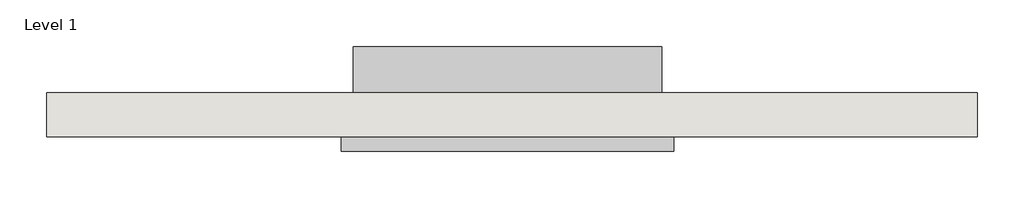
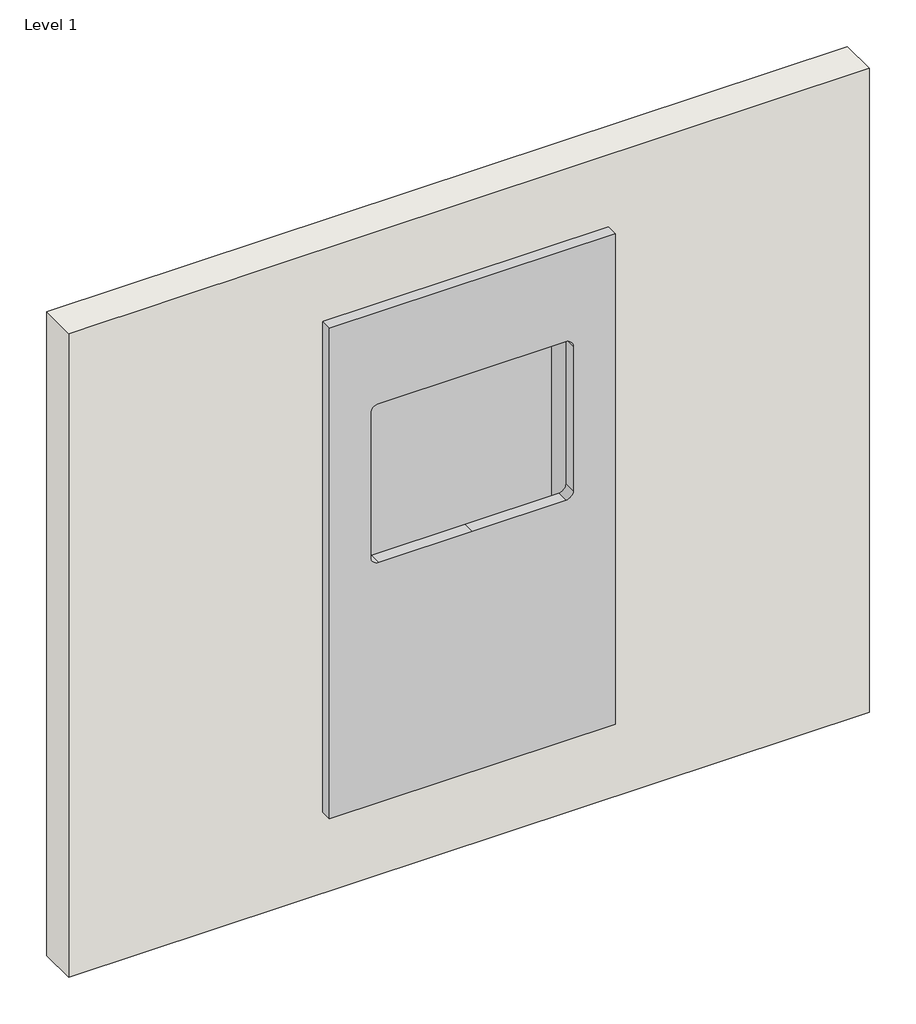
# One storey: 1 proxy, 1 wall.
"""IFC4 building model written with IfcOpenShell, lengths in millimetres."""

import ifcopenshell
import ifcopenshell.guid

model = None  # the IFC model being written
_history = None  # IfcOwnerHistory: only IFC2X3 demands one
_inside = {}  # id of a spatial element -> (the spatial element, [elements in it])
_under = {}  # id of a project, library or spatial element -> (it, [spatial elements below it])
_declared = {}  # id of a project -> (the project, [libraries it declares])
_typed = {}  # id of a type object -> (the type object, [elements of that type])
_made_of = {}  # id of a material, layer set ... -> (it, [elements and type objects made of it])


def new_model(schema):
    """Start an empty IFC model of exactly this schema.

    Asked for "IFC4X3", IfcOpenShell would pick the latest addendum, in which some entities
    have other attributes; the version numbers below select the first issue.
    IFC2X3 requires an IfcOwnerHistory on every rooted entity: one is made here for all.
    """
    global model, _history
    if schema == "IFC4X3":
        model = ifcopenshell.file(schema_version=(4, 3, 0, 0))
    else:
        model = ifcopenshell.file(schema=schema)
    _inside.clear()
    _under.clear()
    _declared.clear()
    _typed.clear()
    _made_of.clear()
    _history = None
    if model.schema == "IFC2X3":
        org = make("IfcOrganization", Name="unknown")
        user = make(
            "IfcPersonAndOrganization",
            ThePerson=make("IfcPerson", FamilyName="unknown"),
            TheOrganization=org,
        )
        app = make(
            "IfcApplication",
            ApplicationDeveloper=org,
            Version="unknown",
            ApplicationFullName="unknown",
            ApplicationIdentifier="unknown",
        )
        _history = make(
            "IfcOwnerHistory",
            OwningUser=user,
            OwningApplication=app,
            ChangeAction="ADDED",
            CreationDate=0,
        )
    return model


def make(cls, **values):
    """One entity of the class cls with the attributes given. An attribute that is None is left unset."""
    return model.create_entity(
        cls, **{name: value for name, value in values.items() if value is not None}
    )


def rooted(cls, **values):
    """An entity with a GlobalId (a new one), such as an element, a storey or a relation."""
    return make(cls, GlobalId=ifcopenshell.guid.new(), OwnerHistory=_history, **values)


def si_unit(unit_type, name, prefix=None):
    """IfcSIUnit, for example si_unit("LENGTHUNIT", "METRE", prefix="MILLI")."""
    return make("IfcSIUnit", UnitType=unit_type, Prefix=prefix, Name=name)


def assignment(units):
    """IfcUnitAssignment: the units of a project."""
    return None if units is None else make("IfcUnitAssignment", Units=units)


def point(xyz):
    """IfcCartesianPoint."""
    return None if xyz is None else make("IfcCartesianPoint", Coordinates=xyz)


def direction(xyz):
    """IfcDirection."""
    return None if xyz is None else make("IfcDirection", DirectionRatios=xyz)


def frame(location, z_axis=None, x_axis=None):
    """IfcAxis2Placement3D, a coordinate frame: its origin and axes. An axis left out is left unset."""
    return make(
        "IfcAxis2Placement3D",
        Location=point(location),
        Axis=direction(z_axis),
        RefDirection=direction(x_axis),
    )


def frame_2d(location, x_axis=None):
    """IfcAxis2Placement2D, a coordinate frame in the plane: its origin and x axis."""
    return make(
        "IfcAxis2Placement2D", Location=point(location), RefDirection=direction(x_axis)
    )


def origin():
    """The frame at (0, 0, 0) with its axes left unset."""
    return frame((0.0, 0.0, 0.0))


def place(relative_to, where):
    """IfcLocalPlacement: puts the frame where relative to a parent placement (None: the world)."""
    return make(
        "IfcLocalPlacement", PlacementRelTo=relative_to, RelativePlacement=where
    )


def context(
    kind, dimensions, precision=None, world=None, true_north=None, identifier=None
):
    """IfcGeometricRepresentationContext, for example the 3D "Model" context."""
    return make(
        "IfcGeometricRepresentationContext",
        ContextIdentifier=identifier,
        ContextType=kind,
        CoordinateSpaceDimension=dimensions,
        Precision=precision,
        WorldCoordinateSystem=world,
        TrueNorth=true_north,
    )


def project(units=None, contexts=None):
    """IfcProject with its units and contexts."""
    return rooted(
        "IfcProject",
        Name="project",
        RepresentationContexts=contexts,
        UnitsInContext=assignment(units),
    )


def spatial(cls, under=None, at=None, **own):
    """A site, building, storey or space (cls), placed at a placement, below another one or the project."""
    s = rooted(cls, ObjectPlacement=at, **own)
    if under is not None:
        _under.setdefault(under.id(), (under, []))[1].append(s)
    return s


def polyline(points):
    """IfcPolyline through the points."""
    return make("IfcPolyline", Points=[point(p) for p in points])


def circle_curve(where, radius):
    """IfcCircle in the frame where."""
    return make("IfcCircle", Position=where, Radius=radius)


def trimmed(basis, trim1, trim2, sense, master):
    """IfcTrimmedCurve: the piece of a basis curve between two trims."""
    return make(
        "IfcTrimmedCurve",
        BasisCurve=basis,
        Trim1=trim1,
        Trim2=trim2,
        SenseAgreement=sense,
        MasterRepresentation=master,
    )


def segment(curve, same_sense, transition):
    """IfcCompositeCurveSegment."""
    return make(
        "IfcCompositeCurveSegment",
        Transition=transition,
        SameSense=same_sense,
        ParentCurve=curve,
    )


def composite_curve(segments, self_intersect=None):
    """IfcCompositeCurve: segments joined end to end."""
    return make("IfcCompositeCurve", Segments=segments, SelfIntersect=self_intersect)


def outline(outer, holes=None, kind="AREA"):
    """IfcArbitraryClosedProfileDef: a profile drawn as a closed curve; with holes, ...WithVoids."""
    if holes is None:
        return make("IfcArbitraryClosedProfileDef", ProfileType=kind, OuterCurve=outer)
    return make(
        "IfcArbitraryProfileDefWithVoids",
        ProfileType=kind,
        OuterCurve=outer,
        InnerCurves=holes,
    )


def extrude(swept, where, along, depth):
    """IfcExtrudedAreaSolid: the profile swept, set in the frame where, extruded along a direction by depth."""
    return make(
        "IfcExtrudedAreaSolid",
        SweptArea=swept,
        Position=where,
        ExtrudedDirection=direction(along),
        Depth=depth,
    )


def shape(context_of_items, identifier, shape_type, items):
    """IfcShapeRepresentation: the items that make up one representation, for example the "Body"."""
    return make(
        "IfcShapeRepresentation",
        ContextOfItems=context_of_items,
        RepresentationIdentifier=identifier,
        RepresentationType=shape_type,
        Items=items,
    )


def source(mapping_origin, context_of_items, identifier, shape_type, items):
    """IfcRepresentationMap: a shape defined once, which mapped items show again and again."""
    return make(
        "IfcRepresentationMap",
        MappingOrigin=mapping_origin,
        MappedRepresentation=shape(context_of_items, identifier, shape_type, items),
    )


def transform(
    local_origin,
    x_axis=None,
    y_axis=None,
    z_axis=None,
    scale=None,
    scale2=None,
    scale3=None,
    uniform=True,
):
    """IfcCartesianTransformationOperator3D, or its non-uniform kind. x_axis, y_axis, z_axis: its Axis1, 2, 3."""
    if uniform:
        return make(
            "IfcCartesianTransformationOperator3D",
            Axis1=direction(x_axis),
            Axis2=direction(y_axis),
            LocalOrigin=point(local_origin),
            Scale=scale,
            Axis3=direction(z_axis),
        )
    return make(
        "IfcCartesianTransformationOperator3DnonUniform",
        Axis1=direction(x_axis),
        Axis2=direction(y_axis),
        LocalOrigin=point(local_origin),
        Scale=scale,
        Axis3=direction(z_axis),
        Scale2=scale2,
        Scale3=scale3,
    )


def mapped(mapping_source, mapping_target):
    """IfcMappedItem: shows the shape of a source again, moved by a transform."""
    return make(
        "IfcMappedItem", MappingSource=mapping_source, MappingTarget=mapping_target
    )


def made_of(thing, what):
    """Note that an element or type object is made of a material, layer set ...; save() writes the relation."""
    if what is not None:
        _made_of.setdefault(what.id(), (what, []))[1].append(thing)
    return thing


def element(
    cls,
    number,
    at=None,
    inside=None,
    cuts=None,
    type_object=None,
    material=None,
    context=None,
    identifier="Body",
    shape_type=None,
    held_by="IfcProductDefinitionShape",
    body=None,
    shapes=None,
    **own,
):
    """One element of the class cls, such as IfcWall. Its Tag is "e" and its number.

    at: its placement. inside: the storey or other place that contains it. cuts: it is an
    opening in that element (IfcRelVoidsElement). A single representation is given by context,
    identifier, shape_type and body (its items); several are given by shapes. held_by: the class
    of the entity that holds the representations. save() writes the other relations.
    """
    e = rooted(cls, Tag="e%d" % number, ObjectPlacement=at, **own)
    if body is not None:
        shapes = [shape(context, identifier, shape_type, body)]
    if shapes is not None:
        e.Representation = make(held_by, Representations=shapes)
    if inside is not None:
        _inside.setdefault(inside.id(), (inside, []))[1].append(e)
    if cuts is not None:
        rooted(
            "IfcRelVoidsElement", RelatingBuildingElement=cuts, RelatedOpeningElement=e
        )
    if type_object is not None:
        _typed.setdefault(type_object.id(), (type_object, []))[1].append(e)
    return made_of(e, material)


def aggregate(whole, parts):
    """IfcRelAggregates: a whole, such as a stair, and the parts it consists of."""
    return rooted("IfcRelAggregates", RelatingObject=whole, RelatedObjects=parts)


def save(model, path):
    """Write the relations noted so far, then the file.

    IfcRelAggregates (storeys below a building ...), IfcRelContainedInSpatialStructure (elements
    in a storey), IfcRelDefinesByType, IfcRelAssociatesMaterial and IfcRelDeclares: one each for
    every whole, place, type object, material and project.
    """
    for whole, parts in _under.values():
        aggregate(whole, parts)
    for where, things in _inside.values():
        rooted(
            "IfcRelContainedInSpatialStructure",
            RelatedElements=things,
            RelatingStructure=where,
        )
    for kind, things in _typed.values():
        rooted("IfcRelDefinesByType", RelatedObjects=things, RelatingType=kind)
    for what, things in _made_of.values():
        rooted("IfcRelAssociatesMaterial", RelatedObjects=things, RelatingMaterial=what)
    for by, libraries in _declared.values():
        rooted("IfcRelDeclares", RelatingContext=by, RelatedDefinitions=libraries)
    model.write(path)


def plane_surface(at):
    """IfcPlane: the flat surface through the origin of the frame at, square to its z axis."""
    return make("IfcPlane", Position=at)


def revolved_surface(curve, axis_point, axis_direction):
    """IfcSurfaceOfRevolution: the curve turned about the line through axis_point along axis_direction."""
    return make(
        "IfcSurfaceOfRevolution",
        SweptCurve=make("IfcArbitraryOpenProfileDef", ProfileType="CURVE", Curve=curve),
        AxisPosition=make("IfcAxis1Placement", Location=point(axis_point), Axis=direction(axis_direction)),
    )


def advanced_brep(points, edges, surfaces, faces):
    """IfcAdvancedBrep: a solid bounded by faces that lie on surfaces and meet in shared edges.

    An edge is (start, end): straight between two places in points (the first is 0);
    or (start, end, curve); or (start, end, curve, False) where it runs against its curve.
    A face is (place in surfaces, loops), or (place, loops, False) where it looks against
    its surface's normal. A loop lists edges by number (the first is 1), with a minus sign
    where the edge is run from its end to its start. The first loop is the outer one.
    """
    corners = [point(p) for p in points]
    vertices = [make("IfcVertexPoint", VertexGeometry=c) for c in corners]
    made = []
    for start, end, *more in edges:
        made.append(
            make(
                "IfcEdgeCurve",
                EdgeStart=vertices[start],
                EdgeEnd=vertices[end],
                EdgeGeometry=more[0] if more else make("IfcPolyline", Points=[corners[start], corners[end]]),
                SameSense=more[1] if len(more) > 1 else True,
            )
        )
    hull = []
    for where, loops, *sense in faces:
        bounds = []
        for j, loop in enumerate(loops):
            ring = [make("IfcOrientedEdge", EdgeElement=made[abs(k) - 1], Orientation=k > 0) for k in loop]
            bounds.append(
                make(
                    "IfcFaceOuterBound" if j == 0 else "IfcFaceBound",
                    Bound=make("IfcEdgeLoop", EdgeList=ring),
                    Orientation=True,
                )
            )
        hull.append(make("IfcAdvancedFace", Bounds=bounds, FaceSurface=surfaces[where], SameSense=sense[0] if sense else True))
    return make("IfcAdvancedBrep", Outer=make("IfcClosedShell", CfsFaces=hull))


def proxy_09_3000_6654ff81(model_context):
    return source(origin(), model_context, "Body", "SolidModel", [
        advanced_brep(
        [(135.0, 100.0, 883.6029766), (135.0, 100.0, 893.6029766), (135.0, 0.0, 930.0), (135.0, 0.0, 920.0), (-135.0, 100.0, 883.6029766), (-135.0, 0.0, 920.0), (-135.0, 0.0, 930.0), (-135.0, 100.0, 893.6029766), (101.854407, 30.1081096, 919.0415443), (-101.8533872, 30.1081096, 919.0415443), (-103.5441955, 47.0427341, 912.877845), (103.5452153, 47.0427341, 912.877845), (-101.8533872, 26.8941716, 910.2113221), (101.854407, 26.8941716, 910.2113221), (103.5452153, 43.8287961, 904.0476228), (-103.5441955, 43.8287961, 904.0476228)],
        [
            (0, 1),
            (1, 2),
            (2, 3),
            (3, 0),
            (4, 5),
            (5, 6),
            (6, 7),
            (7, 4),
            (0, 4),
            (7, 1),
            (6, 2),
            (8, 9, circle_curve(frame((0.0005099, 295.7704212, 822.3483705), z_axis=(0.0, -0.3420201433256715, -0.9396926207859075), x_axis=(0.8583730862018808, 0.4820867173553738, -0.1754652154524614)), 300.5)),
            (9, 10, circle_curve(frame((-98.4639064, 38.9487855, 915.8238014), z_axis=(0.0, -0.3420201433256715, -0.9396926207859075), x_axis=(0.8583730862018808, 0.4820867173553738, -0.1754652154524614)), 10.0)),
            (10, 11, circle_curve(frame((0.0005099, -117.9253431, 972.9213148), z_axis=(0.0, -0.3420201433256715, -0.9396926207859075), x_axis=(0.8583730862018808, 0.4820867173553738, -0.1754652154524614)), 203.8165616)),
            (11, 8, circle_curve(frame((98.4649262, 38.9487855, 915.8238014), z_axis=(0.0, -0.3420201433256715, -0.9396926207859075), x_axis=(0.8583730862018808, 0.4820867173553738, -0.1754652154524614)), 10.0)),
            (5, 3),
            (12, 13, circle_curve(frame((0.0005099, 292.5564831, 813.5181483), z_axis=(0.0, 0.3420201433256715, 0.9396926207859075), x_axis=(0.8583730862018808, 0.4820867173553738, -0.1754652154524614)), 300.5)),
            (13, 14, circle_curve(frame((98.4649262, 35.7348475, 906.9935792), z_axis=(0.0, 0.3420201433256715, 0.9396926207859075), x_axis=(0.8583730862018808, 0.4820867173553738, -0.1754652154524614)), 10.0)),
            (14, 15, circle_curve(frame((0.0005099, -121.1392812, 964.0910925), z_axis=(0.0, 0.3420201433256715, 0.9396926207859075), x_axis=(0.8583730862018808, 0.4820867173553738, -0.1754652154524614)), 203.8165616)),
            (15, 12, circle_curve(frame((-98.4639064, 35.7348475, 906.9935792), z_axis=(0.0, 0.3420201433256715, 0.9396926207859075), x_axis=(0.8583730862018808, 0.4820867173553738, -0.1754652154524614)), 10.0)),
            (12, 9),
            (8, 13),
            (11, 14),
            (10, 15),
        ],
        [
            plane_surface(frame((135.0, 100.0, 883.6029766), z_axis=(1.0, 0.0, 0.0), x_axis=(0.0, 0.0, 1.0))),
            plane_surface(frame((-135.0, 100.0, 883.6029766), z_axis=(-1.0, 0.0, 0.0), x_axis=(0.0, 0.0, -1.0))),
            plane_surface(frame((135.0, 100.0, 883.6029766), z_axis=(0.0, 1.0, 0.0), x_axis=(-1.0, 0.0, 0.0))),
            plane_surface(frame((135.0, 100.0, 893.6029766), z_axis=(0.0, 0.34202014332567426, 0.9396926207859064), x_axis=(-1.0, 0.0, 0.0))),
            plane_surface(frame((135.0, 0.0, 930.0), z_axis=(0.0, -1.0, 0.0), x_axis=(-1.0, 0.0, 0.0))),
            plane_surface(frame((135.0, 0.0, 920.0), z_axis=(0.0, -0.3420201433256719, -0.9396926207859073), x_axis=(-1.0, 0.0, 0.0))),
            revolved_surface(polyline([(257.94162230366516, 440.63747971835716, 769.6210732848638), (257.94162230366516, 437.4235416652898, 760.7908510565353)]), (0.0005099, 292.5564831, 813.5181483), (0.0, 0.3420201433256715, 0.9396926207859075)),
            revolved_surface(polyline([(107.0486570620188, 43.76965271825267, 914.0691492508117), (107.0486570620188, 40.55571466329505, 905.2389270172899)]), (98.4649262, 35.7348475, 906.9935792), (0.0, 0.3420201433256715, 0.9396926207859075)),
            revolved_surface(polyline([(174.95116089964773, -19.668085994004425, 937.158597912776), (174.95116089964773, -22.882024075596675, 928.3283756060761)]), (0.0005099, -121.1392812, 964.0910925), (0.0, 0.3420201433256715, 0.9396926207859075)),
            revolved_surface(polyline([(-89.88017553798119, 43.76965271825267, 914.0691492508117), (-89.88017553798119, 40.55571466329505, 905.2389270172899)]), (-98.4639064, 35.7348475, 906.9935792), (0.0, 0.3420201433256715, 0.9396926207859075)),
        ],
        [
            (0, [[1, 2, 3, 4]]),
            (1, [[5, 6, 7, 8]]),
            (2, [[-1, 9, -8, 10]]),
            (3, [[-2, -10, -7, 11], [12, 13, 14, 15]]),
            (4, [[-3, -11, -6, 16]]),
            (5, [[-4, -16, -5, -9], [17, 18, 19, 20]]),
            (6, [[21, -12, 22, -17]]),
            (7, [[-22, -15, 23, -18]]),
            (8, [[-23, -14, 24, -19]]),
            (9, [[-21, -20, -24, -13]]),
        ],
    ),
        extrude(outline(polyline([(1047.0, 187.5), (1047.0, -187.5), (367.0, -187.5), (367.0, 187.5), (1047.0, 187.5)]), holes=[composite_curve([segment(polyline([(700.0, 122.5), (700.0, 0.0), (700.0, -122.5)]), True, "CONTINUOUS"), segment(trimmed(circle_curve(frame_2d((710.0, -122.5)), 10.0), [point((700.0, -122.5))], [point((710.0, -132.5))], True, "CARTESIAN"), True, "CONTINUOUS"), segment(polyline([(710.0, -132.5), (910.0, -132.5)]), True, "CONTINUOUS"), segment(trimmed(circle_curve(frame_2d((910.0, -122.5)), 10.0), [point((910.0, -132.5))], [point((920.0, -122.5))], True, "CARTESIAN"), True, "CONTINUOUS"), segment(polyline([(920.0, -122.5), (920.0, 122.5)]), True, "CONTINUOUS"), segment(trimmed(circle_curve(frame_2d((910.0, 122.5)), 10.0), [point((920.0, 122.5))], [point((910.0, 132.5))], True, "CARTESIAN"), True, "CONTINUOUS"), segment(polyline([(910.0, 132.5), (710.0, 132.5)]), True, "CONTINUOUS"), segment(trimmed(circle_curve(frame_2d((710.0, 122.5)), 10.0), [point((710.0, 132.5))], [point((700.0, 122.5))], True, "CARTESIAN"), True, "CONTINUOUS")], self_intersect=False)]), frame((0.0, -16.0, 0.0), z_axis=(0.0, 1.0, 0.0), x_axis=(0.0, 0.0, 1.0)), (0.0, 0.0, 1.0), 16.0),
        extrude(outline(polyline([(171.0, 100.0), (-171.0, 100.0), (-171.0, 102.0), (171.0, 102.0), (171.0, 100.0)])), frame((0.0, 0.0, 381.0), z_axis=(0.0, 0.0, 1.0), x_axis=(1.0, 0.0, 0.0)), (0.0, 0.0, 1.0), 649.0),
        extrude(outline(polyline([(1033.0, -174.0), (378.0, -174.0), (378.0, 174.0), (1033.0, 174.0), (1033.0, -174.0)]), holes=[polyline([(1030.0, 171.0), (381.0, 171.0), (381.0, -171.0), (1030.0, -171.0), (1030.0, 171.0)])]), frame((0.0, 0.0, 0.0), z_axis=(0.0, 1.0, 0.0), x_axis=(0.0, 0.0, 1.0)), (0.0, 0.0, 1.0), 102.0),
    ])


model = new_model("IFC4")

# Units and contexts
model_context = context("Model", 3, world=origin())
ifc_project = project(units=[si_unit("LENGTHUNIT", "METRE", prefix="MILLI")], contexts=[model_context])

# Site, building, storey
site = spatial("IfcSite", under=ifc_project)
building = spatial("IfcBuilding", under=site)
storey = spatial("IfcBuildingStorey", under=building, Name="Level 1", Elevation=0.0)

# Proxy
placement = place(None, origin())
proxy_09_3000_shape = proxy_09_3000_6654ff81(model_context)
element("IfcBuildingElementProxy", 1, Name="09-3000 : 09.3000 Dolphin 2 in 1 Combination Unit - Bespoke Finish", ObjectType="09-3000 : 09.3000 Dolphin 2 in 1 Combination Unit - Bespoke Finish", at=placement, inside=storey, context=model_context, shape_type="MappedRepresentation", body=[
    mapped(proxy_09_3000_shape, transform((179.3130754, 30.1278038, -158.0801141), x_axis=(1.0, 0.0, 0.0), y_axis=(0.0, 1.0, 0.0), z_axis=(0.0, 0.0, 1.0))),
])

# Wall
element("IfcWall", 2, ObjectType="Wall 1", at=placement, inside=storey, context=model_context, shape_type="SweptSolid", body=[
    extrude(outline(polyline([(95.7468172, -340.6869246), (95.7468172, 709.3130754), (988.4167265, 709.3130754), (988.4167265, -340.6869246), (95.7468172, -340.6869246)]), holes=[polyline([(878.3159822, 2.9311384), (878.3159822, 355.991231), (217.2956721, 355.991231), (217.2956721, 2.9311384), (878.3159822, 2.9311384)])]), frame((0.0, 30.1278038, 0.0), z_axis=(0.0, 1.0, 0.0), x_axis=(0.0, 0.0, 1.0)), (0.0, 0.0, 1.0), 50.0),
])

save(model, "model.ifc")
